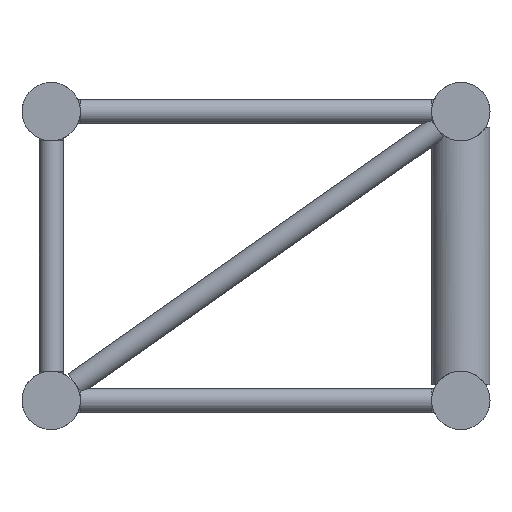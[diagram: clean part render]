
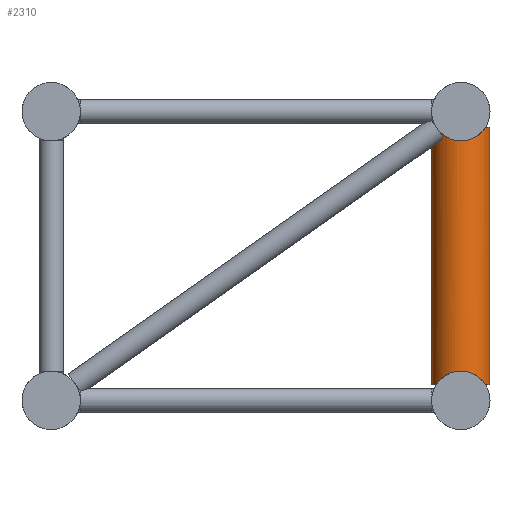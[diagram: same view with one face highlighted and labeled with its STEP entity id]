
A CAD part, left-side view. The second image highlights one B-rep face of the part: STEP entity #2310.
In plain terms, the highlighted cylindrical face has radius 24.15 mm (diameter 48.3 mm), a full revolution.
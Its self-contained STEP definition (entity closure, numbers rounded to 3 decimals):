
#58=FACE_BOUND('',#549,.T.);
#172=B_SPLINE_CURVE_WITH_KNOTS('',3,(#3298,#3299,#3300,#3301,#3302,#3303,
#3304,#3305,#3306,#3307,#3308,#3309,#3310,#3311,#3312,#3313,#3314,#3315,
#3316,#3317,#3318,#3319),.UNSPECIFIED.,.F.,.F.,(4,2,2,2,2,2,2,2,2,2,4),
(1.619,2.098,2.448,2.797,2.963,
3.129,3.294,3.46,3.868,4.276,
4.635),.UNSPECIFIED.);
#266=CYLINDRICAL_SURFACE('',#2563,24.15);
#375=FACE_OUTER_BOUND('',#548,.T.);
#548=EDGE_LOOP('',(#1762,#1763,#1764,#1765,#1766,#1767));
#549=EDGE_LOOP('',(#1768,#1769,#1770,#1771));
#731=CIRCLE('',#2396,24.15);
#788=CIRCLE('',#2558,24.15);
#789=CIRCLE('',#2560,24.15);
#790=CIRCLE('',#2562,24.15);
#921=ELLIPSE('',#2373,41.912,24.15);
#927=ELLIPSE('',#2400,34.153,24.15);
#928=ELLIPSE('',#2401,34.153,24.15);
#965=ELLIPSE('',#2564,34.153,24.15);
#966=ELLIPSE('',#2565,34.153,24.15);
#967=VERTEX_POINT('',#3275);
#968=VERTEX_POINT('',#3276);
#976=VERTEX_POINT('',#3296);
#986=VERTEX_POINT('',#3356);
#995=VERTEX_POINT('',#3622);
#996=VERTEX_POINT('',#3624);
#1097=VERTEX_POINT('',#4484);
#1098=VERTEX_POINT('',#4485);
#1099=VERTEX_POINT('',#4489);
#1100=VERTEX_POINT('',#4490);
#1181=EDGE_CURVE('',#967,#968,#921,.T.);
#1190=EDGE_CURVE('',#968,#976,#172,.T.);
#1208=EDGE_CURVE('',#986,#976,#731,.T.);
#1217=EDGE_CURVE('',#967,#995,#927,.T.);
#1219=EDGE_CURVE('',#996,#986,#928,.T.);
#1362=EDGE_CURVE('',#995,#996,#788,.T.);
#1364=EDGE_CURVE('',#1097,#1098,#789,.T.);
#1366=EDGE_CURVE('',#1099,#1100,#790,.T.);
#1367=EDGE_CURVE('',#1100,#1097,#965,.T.);
#1368=EDGE_CURVE('',#1098,#1099,#966,.T.);
#1762=ORIENTED_EDGE('',*,*,#1190,.T.);
#1763=ORIENTED_EDGE('',*,*,#1208,.F.);
#1764=ORIENTED_EDGE('',*,*,#1219,.F.);
#1765=ORIENTED_EDGE('',*,*,#1362,.F.);
#1766=ORIENTED_EDGE('',*,*,#1217,.F.);
#1767=ORIENTED_EDGE('',*,*,#1181,.T.);
#1768=ORIENTED_EDGE('',*,*,#1367,.F.);
#1769=ORIENTED_EDGE('',*,*,#1366,.F.);
#1770=ORIENTED_EDGE('',*,*,#1368,.F.);
#1771=ORIENTED_EDGE('',*,*,#1364,.F.);
#2310=ADVANCED_FACE('',(#375,#58),#266,.T.);
#2373=AXIS2_PLACEMENT_3D('',#3277,#2659,#2660);
#2396=AXIS2_PLACEMENT_3D('',#3358,#2713,#2714);
#2400=AXIS2_PLACEMENT_3D('',#3623,#2721,#2722);
#2401=AXIS2_PLACEMENT_3D('',#3626,#2724,#2725);
#2558=AXIS2_PLACEMENT_3D('',#4482,#3075,#3076);
#2560=AXIS2_PLACEMENT_3D('',#4487,#3080,#3081);
#2562=AXIS2_PLACEMENT_3D('',#4492,#3085,#3086);
#2563=AXIS2_PLACEMENT_3D('',#4493,#3087,#3088);
#2564=AXIS2_PLACEMENT_3D('',#4494,#3089,#3090);
#2565=AXIS2_PLACEMENT_3D('',#4495,#3091,#3092);
#2659=DIRECTION('center_axis',(0.,-0.817,
0.576));
#2660=DIRECTION('ref_axis',(0.,-0.576,-0.817));
#2713=DIRECTION('center_axis',(0.,0.,1.));
#2714=DIRECTION('ref_axis',(-1.,0.,0.));
#2721=DIRECTION('center_axis',(-0.707,0.,0.707));
#2722=DIRECTION('ref_axis',(-0.707,0.,-0.707));
#2724=DIRECTION('center_axis',(0.707,0.,0.707));
#2725=DIRECTION('ref_axis',(-0.707,0.,0.707));
#3075=DIRECTION('center_axis',(0.,0.,1.));
#3076=DIRECTION('ref_axis',(-1.,0.,0.));
#3080=DIRECTION('center_axis',(0.,0.,-1.));
#3081=DIRECTION('ref_axis',(-1.,0.,0.));
#3085=DIRECTION('center_axis',(0.,0.,-1.));
#3086=DIRECTION('ref_axis',(-1.,0.,0.));
#3087=DIRECTION('center_axis',(0.,0.,1.));
#3088=DIRECTION('ref_axis',(-1.,0.,0.));
#3089=DIRECTION('center_axis',(-0.707,0.,-0.707));
#3090=DIRECTION('ref_axis',(-0.707,0.,0.707));
#3091=DIRECTION('center_axis',(0.707,0.,-0.707));
#3092=DIRECTION('ref_axis',(-0.707,0.,-0.707));
#3275=CARTESIAN_POINT('',(57.303,17.304,-16.847));
#3276=CARTESIAN_POINT('',(54.872,14.545,-20.759));
#3277=CARTESIAN_POINT('Origin',(74.15,0.,-41.39));
#3296=CARTESIAN_POINT('',(69.566,23.711,-13.15));
#3298=CARTESIAN_POINT('Ctrl Pts',(54.872,14.545,-20.759));
#3299=CARTESIAN_POINT('Ctrl Pts',(55.539,15.43,-21.871));
#3300=CARTESIAN_POINT('Ctrl Pts',(56.282,16.29,-22.894));
#3301=CARTESIAN_POINT('Ctrl Pts',(57.74,17.739,-24.451));
#3302=CARTESIAN_POINT('Ctrl Pts',(58.405,18.336,-25.041));
#3303=CARTESIAN_POINT('Ctrl Pts',(59.897,19.519,-26.03));
#3304=CARTESIAN_POINT('Ctrl Pts',(60.719,20.104,-26.438));
#3305=CARTESIAN_POINT('Ctrl Pts',(62.167,20.975,-26.746));
#3306=CARTESIAN_POINT('Ctrl Pts',(62.666,21.252,-26.794));
#3307=CARTESIAN_POINT('Ctrl Pts',(63.682,21.771,-26.743));
#3308=CARTESIAN_POINT('Ctrl Pts',(64.199,22.011,-26.644));
#3309=CARTESIAN_POINT('Ctrl Pts',(65.2,22.437,-26.293));
#3310=CARTESIAN_POINT('Ctrl Pts',(65.685,22.623,-26.039));
#3311=CARTESIAN_POINT('Ctrl Pts',(66.582,22.938,-25.41));
#3312=CARTESIAN_POINT('Ctrl Pts',(66.993,23.068,-25.034));
#3313=CARTESIAN_POINT('Ctrl Pts',(68.242,23.435,-23.633));
#3314=CARTESIAN_POINT('Ctrl Pts',(68.924,23.582,-22.355));
#3315=CARTESIAN_POINT('Ctrl Pts',(69.805,23.76,-19.606));
#3316=CARTESIAN_POINT('Ctrl Pts',(70.,23.791,-18.133));
#3317=CARTESIAN_POINT('Ctrl Pts',(70.,23.791,-15.575));
#3318=CARTESIAN_POINT('Ctrl Pts',(69.855,23.767,-14.351));
#3319=CARTESIAN_POINT('Ctrl Pts',(69.566,23.711,-13.15));
#3356=CARTESIAN_POINT('',(87.3,20.256,-13.15));
#3358=CARTESIAN_POINT('Origin',(74.15,0.,-13.15));
#3622=CARTESIAN_POINT('',(61.,-20.256,-13.15));
#3623=CARTESIAN_POINT('Origin',(74.15,0.,0.));
#3624=CARTESIAN_POINT('',(87.3,-20.256,-13.15));
#3626=CARTESIAN_POINT('Origin',(74.15,0.,0.));
#4482=CARTESIAN_POINT('Origin',(74.15,0.,-13.15));
#4484=CARTESIAN_POINT('',(61.,20.256,-225.85));
#4485=CARTESIAN_POINT('',(87.3,20.256,-225.85));
#4487=CARTESIAN_POINT('Origin',(74.15,0.,-225.85));
#4489=CARTESIAN_POINT('',(87.3,-20.256,-225.85));
#4490=CARTESIAN_POINT('',(61.,-20.256,-225.85));
#4492=CARTESIAN_POINT('Origin',(74.15,0.,-225.85));
#4493=CARTESIAN_POINT('Origin',(74.15,0.,-225.85));
#4494=CARTESIAN_POINT('Origin',(74.15,0.,-239.));
#4495=CARTESIAN_POINT('Origin',(74.15,0.,-239.));
